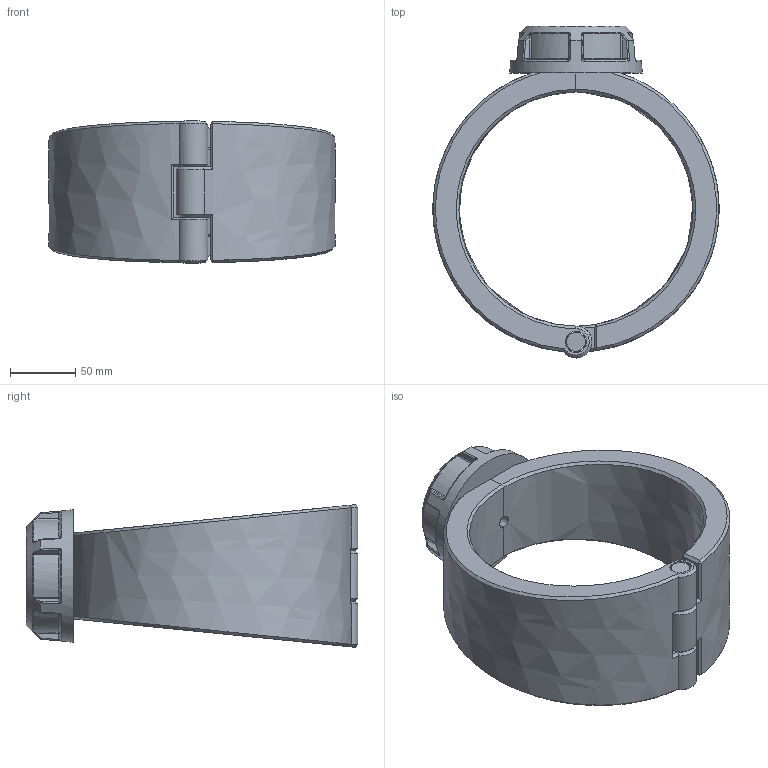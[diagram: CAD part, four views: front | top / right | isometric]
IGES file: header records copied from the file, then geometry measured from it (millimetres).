
Global section: file name: 163000180005; native system: Autodesk Inventor 2019; preprocessor: unknown; author: comp2; date: 20220203.115223; units: millimetre
Bounding box: 220 x 255 x 109.6 mm (x, y, z)
Volume: 1291079.9 mm3; surface area: 175438.5 mm2
Topology: 4 solids, 4 shells, 203 faces, 486 edges, 293 vertices
Faces by surface type: bspline 203
